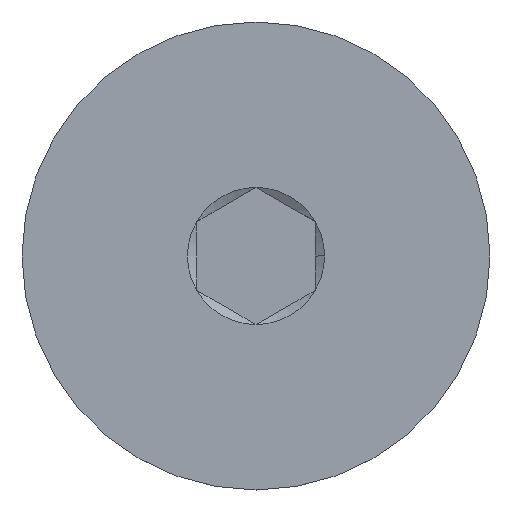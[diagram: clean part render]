
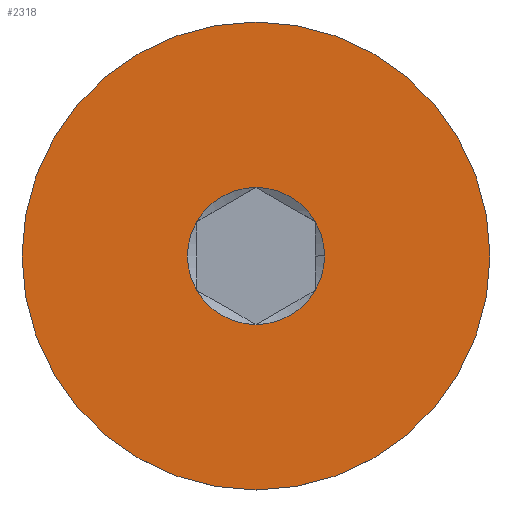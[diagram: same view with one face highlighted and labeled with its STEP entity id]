
A CAD part, top view. The second image highlights one B-rep face of the part: STEP entity #2318.
In plain terms, the highlighted planar face has unit normal (0, 0, 1).
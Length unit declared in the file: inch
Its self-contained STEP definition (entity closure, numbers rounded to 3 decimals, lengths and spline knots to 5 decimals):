
#11 = EDGE_LOOP ( 'NONE', ( #1240, #565 ) ) ;
#66 = CARTESIAN_POINT ( 'NONE',  ( 0., 0., 0. ) ) ;
#143 = DIRECTION ( 'NONE',  ( 1., 0., 0. ) ) ;
#182 = CARTESIAN_POINT ( 'NONE',  ( 0., 0., 0. ) ) ;
#212 = DIRECTION ( 'NONE',  ( 1., 0., 0. ) ) ;
#260 = CARTESIAN_POINT ( 'NONE',  ( 0., 0., 0. ) ) ;
#277 = DIRECTION ( 'NONE',  ( 0., 0., 1. ) ) ;
#344 = CARTESIAN_POINT ( 'NONE',  ( 0., 0., 0. ) ) ;
#413 = DIRECTION ( 'NONE',  ( 1., 0., 0. ) ) ;
#468 = AXIS2_PLACEMENT_3D ( 'NONE', #182, #2354, #413 ) ;
#493 = ORIENTED_EDGE ( 'NONE', *, *, #2775, .F. ) ;
#560 = DIRECTION ( 'NONE',  ( 1., 0., 0. ) ) ;
#565 = ORIENTED_EDGE ( 'NONE', *, *, #1715, .T. ) ;
#573 = DIRECTION ( 'NONE',  ( 0., 0., 1. ) ) ;
#615 = AXIS2_PLACEMENT_3D ( 'NONE', #260, #2932, #1505 ) ;
#625 = EDGE_CURVE ( 'NONE', #2479, #1731, #2014, .T. ) ;
#651 = CARTESIAN_POINT ( 'NONE',  ( 0., 0.02887, 0. ) ) ;
#674 = CIRCLE ( 'NONE', #468, 0.02887 ) ;
#716 = ORIENTED_EDGE ( 'NONE', *, *, #625, .F. ) ;
#717 = AXIS2_PLACEMENT_3D ( 'NONE', #1388, #1894, #212 ) ;
#735 = EDGE_CURVE ( 'NONE', #2967, #2132, #674, .T. ) ;
#741 = AXIS2_PLACEMENT_3D ( 'NONE', #2948, #573, #560 ) ;
#759 = ORIENTED_EDGE ( 'NONE', *, *, #2133, .F. ) ;
#782 = DIRECTION ( 'NONE',  ( 0., 0., 1. ) ) ;
#785 = CARTESIAN_POINT ( 'NONE',  ( -0.025, 0.01443, 0. ) ) ;
#833 = ORIENTED_EDGE ( 'NONE', *, *, #2570, .F. ) ;
#896 = CIRCLE ( 'NONE', #2726, 0.02887 ) ;
#977 = AXIS2_PLACEMENT_3D ( 'NONE', #2443, #782, #2918 ) ;
#1004 = CARTESIAN_POINT ( 'NONE',  ( 0., 0., 0. ) ) ;
#1072 = CIRCLE ( 'NONE', #1617, 0.02887 ) ;
#1106 = AXIS2_PLACEMENT_3D ( 'NONE', #344, #1996, #2941 ) ;
#1235 = DIRECTION ( 'NONE',  ( 1., 0., 0. ) ) ;
#1240 = ORIENTED_EDGE ( 'NONE', *, *, #1443, .T. ) ;
#1275 = CIRCLE ( 'NONE', #741, 0.02887 ) ;
#1305 = CARTESIAN_POINT ( 'NONE',  ( -0.025, -0.01443, 0. ) ) ;
#1316 = VERTEX_POINT ( 'NONE', #785 ) ;
#1338 = CARTESIAN_POINT ( 'NONE',  ( 0., 0., 0. ) ) ;
#1351 = CIRCLE ( 'NONE', #1634, 0.0985 ) ;
#1388 = CARTESIAN_POINT ( 'NONE',  ( 0., 0., 0. ) ) ;
#1400 = VERTEX_POINT ( 'NONE', #2186 ) ;
#1426 = CIRCLE ( 'NONE', #1106, 0.02887 ) ;
#1443 = EDGE_CURVE ( 'NONE', #1722, #2853, #1605, .T. ) ;
#1505 = DIRECTION ( 'NONE',  ( 0., -1., 0. ) ) ;
#1508 = EDGE_CURVE ( 'NONE', #2132, #1400, #1275, .T. ) ;
#1544 = AXIS2_PLACEMENT_3D ( 'NONE', #66, #1719, #1235 ) ;
#1566 = DIRECTION ( 'NONE',  ( 0., 0., 1. ) ) ;
#1590 = EDGE_CURVE ( 'NONE', #1316, #2525, #1426, .T. ) ;
#1605 = CIRCLE ( 'NONE', #615, 0.0985 ) ;
#1617 = AXIS2_PLACEMENT_3D ( 'NONE', #1338, #1566, #143 ) ;
#1634 = AXIS2_PLACEMENT_3D ( 'NONE', #2312, #1848, #2598 ) ;
#1712 = FACE_BOUND ( 'NONE', #2327, .T. ) ;
#1715 = EDGE_CURVE ( 'NONE', #2853, #1722, #1351, .T. ) ;
#1719 = DIRECTION ( 'NONE',  ( 0., 0., 1. ) ) ;
#1722 = VERTEX_POINT ( 'NONE', #2090 ) ;
#1731 = VERTEX_POINT ( 'NONE', #651 ) ;
#1804 = ORIENTED_EDGE ( 'NONE', *, *, #1508, .F. ) ;
#1848 = DIRECTION ( 'NONE',  ( 0., 0., 1. ) ) ;
#1894 = DIRECTION ( 'NONE',  ( 0., 0., 1. ) ) ;
#1903 = CARTESIAN_POINT ( 'NONE',  ( 0., -0.02887, 0. ) ) ;
#1908 = ORIENTED_EDGE ( 'NONE', *, *, #1590, .F. ) ;
#1996 = DIRECTION ( 'NONE',  ( 0., 0., 1. ) ) ;
#2014 = CIRCLE ( 'NONE', #1544, 0.02887 ) ;
#2060 = ORIENTED_EDGE ( 'NONE', *, *, #735, .F. ) ;
#2090 = CARTESIAN_POINT ( 'NONE',  ( 0., -0.0985, 0. ) ) ;
#2132 = VERTEX_POINT ( 'NONE', #2177 ) ;
#2133 = EDGE_CURVE ( 'NONE', #1400, #2479, #896, .T. ) ;
#2177 = CARTESIAN_POINT ( 'NONE',  ( 0.025, -0.01443, 0. ) ) ;
#2186 = CARTESIAN_POINT ( 'NONE',  ( 0.02887, 0., 0. ) ) ;
#2238 = CARTESIAN_POINT ( 'NONE',  ( 0.025, 0.01443, 0. ) ) ;
#2312 = CARTESIAN_POINT ( 'NONE',  ( 0., 0., 0. ) ) ;
#2318 = ADVANCED_FACE ( 'NONE', ( #1712, #2915 ), #2410, .T. ) ;
#2327 = EDGE_LOOP ( 'NONE', ( #2060, #833, #1908, #493, #716, #759, #1804 ) ) ;
#2354 = DIRECTION ( 'NONE',  ( 0., 0., 1. ) ) ;
#2410 = PLANE ( 'NONE',  #977 ) ;
#2432 = CIRCLE ( 'NONE', #717, 0.02887 ) ;
#2443 = CARTESIAN_POINT ( 'NONE',  ( 0., -0.043, 0. ) ) ;
#2479 = VERTEX_POINT ( 'NONE', #2238 ) ;
#2525 = VERTEX_POINT ( 'NONE', #1305 ) ;
#2570 = EDGE_CURVE ( 'NONE', #2525, #2967, #1072, .T. ) ;
#2598 = DIRECTION ( 'NONE',  ( 0., -1., 0. ) ) ;
#2688 = DIRECTION ( 'NONE',  ( 1., 0., 0. ) ) ;
#2726 = AXIS2_PLACEMENT_3D ( 'NONE', #1004, #277, #2688 ) ;
#2775 = EDGE_CURVE ( 'NONE', #1731, #1316, #2432, .T. ) ;
#2840 = CARTESIAN_POINT ( 'NONE',  ( 0., 0.0985, 0. ) ) ;
#2853 = VERTEX_POINT ( 'NONE', #2840 ) ;
#2915 = FACE_OUTER_BOUND ( 'NONE', #11, .T. ) ;
#2918 = DIRECTION ( 'NONE',  ( 0., -1., 0. ) ) ;
#2932 = DIRECTION ( 'NONE',  ( 0., 0., 1. ) ) ;
#2941 = DIRECTION ( 'NONE',  ( 1., 0., 0. ) ) ;
#2948 = CARTESIAN_POINT ( 'NONE',  ( 0., 0., 0. ) ) ;
#2967 = VERTEX_POINT ( 'NONE', #1903 ) ;
